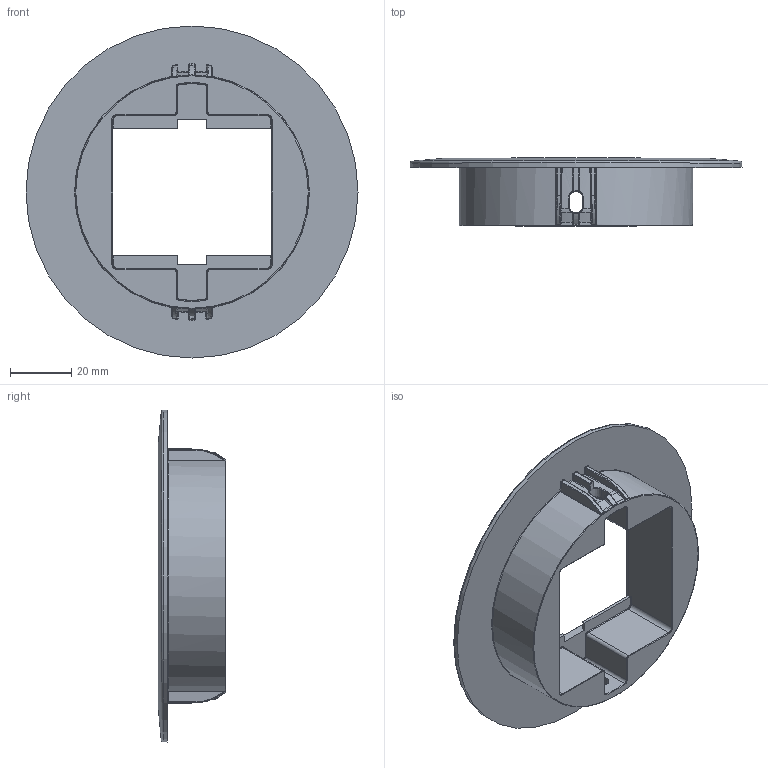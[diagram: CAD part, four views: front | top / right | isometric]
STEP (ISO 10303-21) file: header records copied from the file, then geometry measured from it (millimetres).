
FILE_DESCRIPTION (( 'STEP AP203' ), '1' );
FILE_NAME ('Port_1.STEP', '2021-09-02T09:34:37', ( '' ), ( '' ), 'SwSTEP 2.0', 'SolidWorks 2021', '' );
FILE_SCHEMA (( 'CONFIG_CONTROL_DESIGN' ));
Length unit declared in the file: millimetre
Products named in the file (1): Port_1
Bounding box: 108 x 22 x 108 mm (x, y, z)
Volume: 52147.7 mm3; surface area: 24494.2 mm2
Topology: 1 solids, 1 shells, 388 faces, 907 edges, 516 vertices
Faces by surface type: bspline 146, cylinder 87, torus 73, plane 49, sphere 28, cone 5
Full cylindrical faces by diameter (mm): 76 x1
Entity records: 13656 total; most frequent: CARTESIAN_POINT 5856, ORIENTED_EDGE 1772, DIRECTION 1454, EDGE_CURVE 886, AXIS2_PLACEMENT_3D 628, VERTEX_POINT 505, EDGE_LOOP 399, FACE_OUTER_BOUND 392
